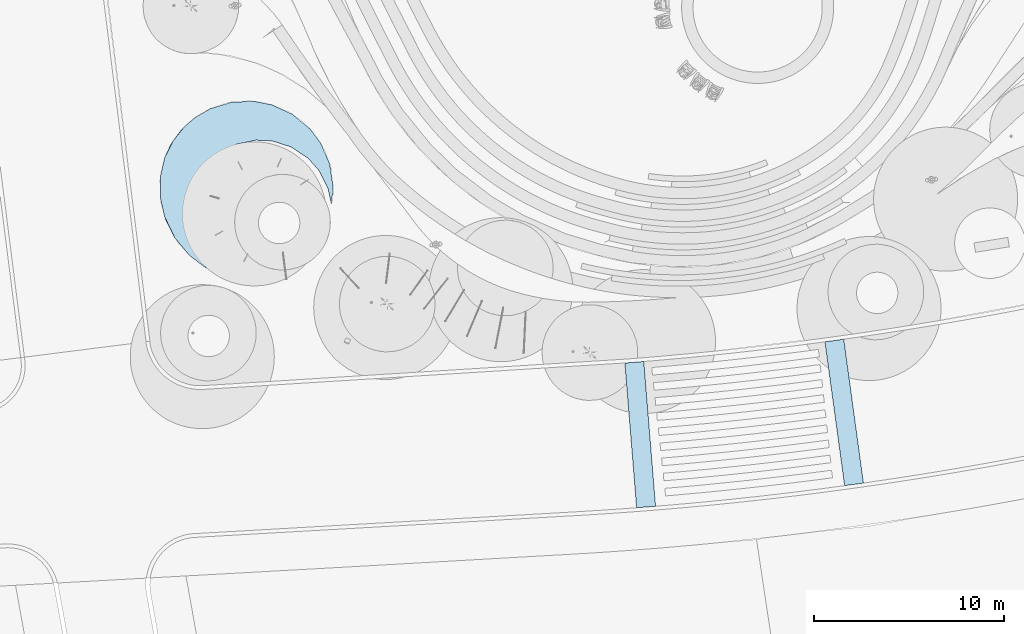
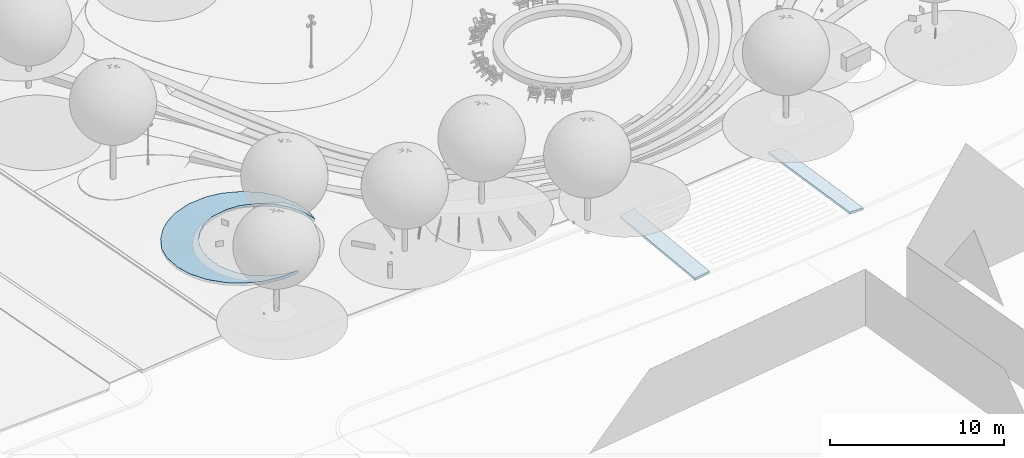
# One storey, part 41 of 75: 2 slabs.
"""IFC2X3 building model written with IfcOpenShell, lengths in metres."""

import ifcopenshell
import ifcopenshell.guid

model = None  # the IFC model being written
_history = None  # IfcOwnerHistory: only IFC2X3 demands one
_inside = {}  # id of a spatial element -> (the spatial element, [elements in it])
_under = {}  # id of a project, library or spatial element -> (it, [spatial elements below it])
_declared = {}  # id of a project -> (the project, [libraries it declares])
_typed = {}  # id of a type object -> (the type object, [elements of that type])
_made_of = {}  # id of a material, layer set ... -> (it, [elements and type objects made of it])


def new_model(schema):
    """Start an empty IFC model of exactly this schema.

    Asked for "IFC4X3", IfcOpenShell would pick the latest addendum, in which some entities
    have other attributes; the version numbers below select the first issue.
    IFC2X3 requires an IfcOwnerHistory on every rooted entity: one is made here for all.
    """
    global model, _history
    if schema == "IFC4X3":
        model = ifcopenshell.file(schema_version=(4, 3, 0, 0))
    else:
        model = ifcopenshell.file(schema=schema)
    _inside.clear()
    _under.clear()
    _declared.clear()
    _typed.clear()
    _made_of.clear()
    _history = None
    if model.schema == "IFC2X3":
        org = make("IfcOrganization", Name="unknown")
        user = make(
            "IfcPersonAndOrganization",
            ThePerson=make("IfcPerson", FamilyName="unknown"),
            TheOrganization=org,
        )
        app = make(
            "IfcApplication",
            ApplicationDeveloper=org,
            Version="unknown",
            ApplicationFullName="unknown",
            ApplicationIdentifier="unknown",
        )
        _history = make(
            "IfcOwnerHistory",
            OwningUser=user,
            OwningApplication=app,
            ChangeAction="ADDED",
            CreationDate=0,
        )
    return model


def make(cls, **values):
    """One entity of the class cls with the attributes given. An attribute that is None is left unset."""
    return model.create_entity(
        cls, **{name: value for name, value in values.items() if value is not None}
    )


def entity(cls, *values):
    """Any entity or typed value of the class cls, its attributes in the order of the schema. None: left unset."""
    e = model.create_entity(cls)
    for i, value in enumerate(values):
        if value is not None:
            e[i] = value
    return e


def rooted(cls, **values):
    """An entity with a GlobalId (a new one), such as an element, a storey or a relation."""
    return make(cls, GlobalId=ifcopenshell.guid.new(), OwnerHistory=_history, **values)


def si_unit(unit_type, name, prefix=None):
    """IfcSIUnit, for example si_unit("LENGTHUNIT", "METRE", prefix="MILLI")."""
    return make("IfcSIUnit", UnitType=unit_type, Prefix=prefix, Name=name)


def converted_unit(unit_type, name, factor, base, dimensions=None, offset=None):
    """IfcConversionBasedUnit, such as the inch: factor (a typed value) times the base unit."""
    return make(
        "IfcConversionBasedUnit"
        if offset is None
        else "IfcConversionBasedUnitWithOffset",
        ConversionOffset=offset,
        Dimensions=None
        if dimensions is None
        else entity("IfcDimensionalExponents", *dimensions),
        UnitType=unit_type,
        Name=name,
        ConversionFactor=make(
            "IfcMeasureWithUnit", ValueComponent=factor, UnitComponent=base
        ),
    )


def derived_unit(unit_type, elements):
    """IfcDerivedUnit: a product of units, each with its exponent."""
    return make(
        "IfcDerivedUnit",
        Elements=[
            make("IfcDerivedUnitElement", Unit=unit, Exponent=power)
            for unit, power in elements
        ],
        UnitType=unit_type,
    )


def assignment(units):
    """IfcUnitAssignment: the units of a project."""
    return None if units is None else make("IfcUnitAssignment", Units=units)


def point(xyz):
    """IfcCartesianPoint."""
    return None if xyz is None else make("IfcCartesianPoint", Coordinates=xyz)


def direction(xyz):
    """IfcDirection."""
    return None if xyz is None else make("IfcDirection", DirectionRatios=xyz)


def frame(location, z_axis=None, x_axis=None):
    """IfcAxis2Placement3D, a coordinate frame: its origin and axes. An axis left out is left unset."""
    return make(
        "IfcAxis2Placement3D",
        Location=point(location),
        Axis=direction(z_axis),
        RefDirection=direction(x_axis),
    )


def origin():
    """The frame at (0, 0, 0) with its axes left unset."""
    return frame((0.0, 0.0, 0.0))


def place(relative_to, where):
    """IfcLocalPlacement: puts the frame where relative to a parent placement (None: the world)."""
    return make(
        "IfcLocalPlacement", PlacementRelTo=relative_to, RelativePlacement=where
    )


def context(
    kind, dimensions, precision=None, world=None, true_north=None, identifier=None
):
    """IfcGeometricRepresentationContext, for example the 3D "Model" context."""
    return make(
        "IfcGeometricRepresentationContext",
        ContextIdentifier=identifier,
        ContextType=kind,
        CoordinateSpaceDimension=dimensions,
        Precision=precision,
        WorldCoordinateSystem=world,
        TrueNorth=true_north,
    )


def subcontext(parent, identifier, kind, view, scale=None):
    """IfcGeometricRepresentationSubContext, for example "Body" below "Model"."""
    return make(
        "IfcGeometricRepresentationSubContext",
        ContextIdentifier=identifier,
        ContextType=kind,
        ParentContext=parent,
        TargetScale=scale,
        TargetView=view,
    )


def project(units=None, contexts=None):
    """IfcProject with its units and contexts."""
    return rooted(
        "IfcProject",
        Name="project",
        RepresentationContexts=contexts,
        UnitsInContext=assignment(units),
    )


def spatial(cls, under=None, at=None, **own):
    """A site, building, storey or space (cls), placed at a placement, below another one or the project."""
    s = rooted(cls, ObjectPlacement=at, **own)
    if under is not None:
        _under.setdefault(under.id(), (under, []))[1].append(s)
    return s


def faces_of(points, faces, orient=None, outer=None):
    """IfcFace entities. A face is a list of loops; a loop is a list of indices into points, from 0.

    orient and outer hold one flag for each loop. By default every Orientation is true, the
    first loop of a face is its IfcFaceOuterBound and the others are IfcFaceBound.
    """
    made = []
    for i, loops in enumerate(faces):
        bounds = []
        for j, loop in enumerate(loops):
            is_outer = j == 0 if outer is None else outer[i][j]
            bounds.append(
                make(
                    "IfcFaceOuterBound" if is_outer else "IfcFaceBound",
                    Bound=make("IfcPolyLoop", Polygon=[points[k] for k in loop]),
                    Orientation=True if orient is None else orient[i][j],
                )
            )
        made.append(make("IfcFace", Bounds=bounds))
    return made


def face_set(faces, orient=None, outer=None):
    """The faces of one IfcConnectedFaceSet. surface_model builds it on its shared points."""
    return ("IfcConnectedFaceSet", faces, orient, outer)


def faceted_brep(points, faces, orient=None, outer=None, voids=None):
    """IfcFacetedBrep: a solid bounded by flat faces; with voids (closed shells), ...WithVoids."""
    shared = [point(p) for p in points]
    hull = make("IfcClosedShell", CfsFaces=faces_of(shared, faces, orient, outer))
    if voids is None:
        return make("IfcFacetedBrep", Outer=hull)
    return make(
        "IfcFacetedBrepWithVoids",
        Outer=hull,
        Voids=[
            make(cls, CfsFaces=faces_of(shared, fs, o, b)) for cls, fs, o, b in voids
        ],
    )


def surface_model(cls, points, shells):
    """IfcFaceBasedSurfaceModel or IfcShellBasedSurfaceModel (cls): surfaces that need not close."""
    shared = [point(p) for p in points]
    made = [make(c, CfsFaces=faces_of(shared, fs, o, b)) for c, fs, o, b in shells]
    if cls == "IfcFaceBasedSurfaceModel":
        return make(cls, FbsmFaces=made)
    return make(cls, SbsmBoundary=made)


def shape(context_of_items, identifier, shape_type, items):
    """IfcShapeRepresentation: the items that make up one representation, for example the "Body"."""
    return make(
        "IfcShapeRepresentation",
        ContextOfItems=context_of_items,
        RepresentationIdentifier=identifier,
        RepresentationType=shape_type,
        Items=items,
    )


def material(Name=None, Category=None):
    """IfcMaterial."""
    return make("IfcMaterial", Name=Name, Category=Category)


def layer(
    of_material, thickness, ventilated=None, Name=None, Category=None, Priority=None
):
    """IfcMaterialLayer: one layer of a wall or slab, of a material (None: an air gap)."""
    return make(
        "IfcMaterialLayer",
        Material=of_material,
        LayerThickness=thickness,
        IsVentilated=ventilated,
        Name=Name,
        Category=Category,
        Priority=Priority,
    )


def layer_set(layers, Name=None):
    """IfcMaterialLayerSet."""
    return make("IfcMaterialLayerSet", MaterialLayers=layers, LayerSetName=Name)


def made_of(thing, what):
    """Note that an element or type object is made of a material, layer set ...; save() writes the relation."""
    if what is not None:
        _made_of.setdefault(what.id(), (what, []))[1].append(thing)
    return thing


def type_object(cls, material=None, **own):
    """A type object (cls), such as IfcWallType, which elements share."""
    return made_of(rooted(cls, **own), material)


def element(
    cls,
    number,
    at=None,
    inside=None,
    cuts=None,
    type_object=None,
    material=None,
    context=None,
    identifier="Body",
    shape_type=None,
    held_by="IfcProductDefinitionShape",
    body=None,
    shapes=None,
    **own,
):
    """One element of the class cls, such as IfcWall. Its Tag is "e" and its number.

    at: its placement. inside: the storey or other place that contains it. cuts: it is an
    opening in that element (IfcRelVoidsElement). A single representation is given by context,
    identifier, shape_type and body (its items); several are given by shapes. held_by: the class
    of the entity that holds the representations. save() writes the other relations.
    """
    e = rooted(cls, Tag="e%d" % number, ObjectPlacement=at, **own)
    if body is not None:
        shapes = [shape(context, identifier, shape_type, body)]
    if shapes is not None:
        e.Representation = make(held_by, Representations=shapes)
    if inside is not None:
        _inside.setdefault(inside.id(), (inside, []))[1].append(e)
    if cuts is not None:
        rooted(
            "IfcRelVoidsElement", RelatingBuildingElement=cuts, RelatedOpeningElement=e
        )
    if type_object is not None:
        _typed.setdefault(type_object.id(), (type_object, []))[1].append(e)
    return made_of(e, material)


def aggregate(whole, parts):
    """IfcRelAggregates: a whole, such as a stair, and the parts it consists of."""
    return rooted("IfcRelAggregates", RelatingObject=whole, RelatedObjects=parts)


def save(model, path):
    """Write the relations noted so far, then the file.

    IfcRelAggregates (storeys below a building ...), IfcRelContainedInSpatialStructure (elements
    in a storey), IfcRelDefinesByType, IfcRelAssociatesMaterial and IfcRelDeclares: one each for
    every whole, place, type object, material and project.
    """
    for whole, parts in _under.values():
        aggregate(whole, parts)
    for where, things in _inside.values():
        rooted(
            "IfcRelContainedInSpatialStructure",
            RelatedElements=things,
            RelatingStructure=where,
        )
    for kind, things in _typed.values():
        rooted("IfcRelDefinesByType", RelatedObjects=things, RelatingType=kind)
    for what, things in _made_of.values():
        rooted("IfcRelAssociatesMaterial", RelatedObjects=things, RelatingMaterial=what)
    for by, libraries in _declared.values():
        rooted("IfcRelDeclares", RelatingContext=by, RelatedDefinitions=libraries)
    model.write(path)


model = new_model("IFC2X3")

# Units and contexts
model_context = context("Model", 3, precision=1e-05, world=origin(), true_north=direction((6.123031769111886e-17, 1.0)))
body_context = subcontext(model_context, "Body", "Model", "MODEL_VIEW")
ifc_project = project(units=[si_unit("LENGTHUNIT", "METRE"), si_unit("AREAUNIT", "SQUARE_METRE"), si_unit("VOLUMEUNIT", "CUBIC_METRE"), converted_unit("PLANEANGLEUNIT", "DEGREE", entity("IfcRatioMeasure", 0.017453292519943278), si_unit("PLANEANGLEUNIT", "RADIAN"), dimensions=[0, 0, 0, 0, 0, 0, 0]), si_unit("MASSUNIT", "GRAM", prefix="KILO"), derived_unit("MASSDENSITYUNIT", [(si_unit("MASSUNIT", "GRAM", prefix="KILO"), 1), (si_unit("LENGTHUNIT", "METRE"), -3)]), derived_unit("IONCONCENTRATIONUNIT", [(si_unit("MASSUNIT", "GRAM", prefix="KILO"), 1), (si_unit("LENGTHUNIT", "METRE"), -3)]), derived_unit("MOMENTOFINERTIAUNIT", [(si_unit("LENGTHUNIT", "METRE"), 4)]), si_unit("TIMEUNIT", "SECOND"), si_unit("FREQUENCYUNIT", "HERTZ"), si_unit("THERMODYNAMICTEMPERATUREUNIT", "DEGREE_CELSIUS"), derived_unit("THERMALTRANSMITTANCEUNIT", [(si_unit("MASSUNIT", "GRAM", prefix="KILO"), 1), (si_unit("THERMODYNAMICTEMPERATUREUNIT", "KELVIN"), -1), (si_unit("TIMEUNIT", "SECOND"), -3)]), derived_unit("THERMALCONDUCTANCEUNIT", [(si_unit("MASSUNIT", "GRAM", prefix="KILO"), 1), (si_unit("THERMODYNAMICTEMPERATUREUNIT", "KELVIN"), -1), (si_unit("TIMEUNIT", "SECOND"), -3), (si_unit("LENGTHUNIT", "METRE"), 1)]), derived_unit("VOLUMETRICFLOWRATEUNIT", [(si_unit("LENGTHUNIT", "METRE"), 3), (si_unit("TIMEUNIT", "SECOND"), -1)]), derived_unit("MASSFLOWRATEUNIT", [(si_unit("MASSUNIT", "GRAM", prefix="KILO"), 1), (si_unit("TIMEUNIT", "SECOND"), -1)]), derived_unit("ROTATIONALFREQUENCYUNIT", [(si_unit("TIMEUNIT", "SECOND"), -1)]), si_unit("ELECTRICCURRENTUNIT", "AMPERE"), si_unit("ELECTRICVOLTAGEUNIT", "VOLT"), si_unit("POWERUNIT", "WATT"), si_unit("FORCEUNIT", "NEWTON", prefix="KILO"), si_unit("ILLUMINANCEUNIT", "LUX"), si_unit("LUMINOUSFLUXUNIT", "LUMEN"), si_unit("LUMINOUSINTENSITYUNIT", "CANDELA"), derived_unit("USERDEFINED", [(si_unit("MASSUNIT", "GRAM", prefix="KILO"), -1), (si_unit("LENGTHUNIT", "METRE"), -2), (si_unit("TIMEUNIT", "SECOND"), 3), (si_unit("LUMINOUSFLUXUNIT", "LUMEN"), 1)]), derived_unit("USERDEFINED", [(si_unit("MASSUNIT", "GRAM", prefix="KILO"), 1), (si_unit("TIMEUNIT", "SECOND"), -3), (si_unit("LENGTHUNIT", "METRE"), 3), (si_unit("ELECTRICCURRENTUNIT", "AMPERE"), -2)]), derived_unit("SOUNDPOWERUNIT", [(si_unit("MASSUNIT", "GRAM", prefix="KILO"), 1), (si_unit("TIMEUNIT", "SECOND"), -3), (si_unit("LENGTHUNIT", "METRE"), 2)]), derived_unit("SOUNDPRESSUREUNIT", [(si_unit("MASSUNIT", "GRAM", prefix="KILO"), 1), (si_unit("LENGTHUNIT", "METRE"), -1), (si_unit("TIMEUNIT", "SECOND"), -2)]), derived_unit("LINEARVELOCITYUNIT", [(si_unit("LENGTHUNIT", "METRE"), 1), (si_unit("TIMEUNIT", "SECOND"), -1)]), si_unit("PRESSUREUNIT", "PASCAL"), derived_unit("USERDEFINED", [(si_unit("MASSUNIT", "GRAM", prefix="KILO"), 1), (si_unit("LENGTHUNIT", "METRE"), -2), (si_unit("TIMEUNIT", "SECOND"), -2)]), derived_unit("LINEARFORCEUNIT", [(si_unit("MASSUNIT", "GRAM", prefix="KILO"), 1), (si_unit("TIMEUNIT", "SECOND"), -2)]), derived_unit("PLANARFORCEUNIT", [(si_unit("MASSUNIT", "GRAM", prefix="KILO"), 1), (si_unit("LENGTHUNIT", "METRE"), -1), (si_unit("TIMEUNIT", "SECOND"), -2)]), derived_unit("SPECIFICHEATCAPACITYUNIT", [(si_unit("THERMODYNAMICTEMPERATUREUNIT", "KELVIN"), -1), (si_unit("LENGTHUNIT", "METRE"), 2), (si_unit("TIMEUNIT", "SECOND"), -2)]), derived_unit("HEATINGVALUEUNIT", [(si_unit("LENGTHUNIT", "METRE"), 2), (si_unit("TIMEUNIT", "SECOND"), -2)]), derived_unit("VAPORPERMEABILITYUNIT", [(si_unit("LENGTHUNIT", "METRE"), -1), (si_unit("TIMEUNIT", "SECOND"), 1)]), derived_unit("DYNAMICVISCOSITYUNIT", [(si_unit("MASSUNIT", "GRAM", prefix="KILO"), 1), (si_unit("TIMEUNIT", "SECOND"), -1), (si_unit("LENGTHUNIT", "METRE"), -1)]), derived_unit("THERMALEXPANSIONCOEFFICIENTUNIT", [(si_unit("THERMODYNAMICTEMPERATUREUNIT", "KELVIN"), -1)]), derived_unit("MODULUSOFELASTICITYUNIT", [(si_unit("MASSUNIT", "GRAM", prefix="KILO"), 1), (si_unit("LENGTHUNIT", "METRE"), -1), (si_unit("TIMEUNIT", "SECOND"), -2)]), derived_unit("ISOTHERMALMOISTURECAPACITYUNIT", [(si_unit("LENGTHUNIT", "METRE"), 3), (si_unit("MASSUNIT", "GRAM", prefix="KILO"), -1)]), derived_unit("MOISTUREDIFFUSIVITYUNIT", [(si_unit("TIMEUNIT", "SECOND"), -1), (si_unit("LENGTHUNIT", "METRE"), 2)])], contexts=[model_context])

# Site, building, storey
site_placement = place(None, origin())
site = spatial("IfcSite", under=ifc_project, at=site_placement, Name="Default", CompositionType="ELEMENT")
building_placement = place(site_placement, origin())
building = spatial("IfcBuilding", under=site, at=building_placement, Name="Projeto", CompositionType="ELEMENT")
storey_placement = place(building_placement, origin())
storey = spatial("IfcBuildingStorey", under=building, at=storey_placement, Name="Nível 1", CompositionType="ELEMENT", Elevation=0.0)

# Slabs
ifc_material_1 = material(Name="Piso CAJOI PASSEIO")
ifc_layer_1 = layer(ifc_material_1, 0.14999999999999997)
ifc_layer_set_1 = layer_set([ifc_layer_1], Name="Piso:Basalto Flameado 20x10cm")
slab_type_1 = type_object("IfcSlabType", Name="Piso:Basalto Flameado 20x10cm", PredefinedType="FLOOR", material=ifc_layer_set_1)
slab_1_placement = place(storey_placement, origin())
element("IfcSlab", 1, at=slab_1_placement, inside=storey, type_object=slab_type_1, material=ifc_material_1, Name="Piso:Basalto Flameado 20x10cm", ObjectType="Piso:Basalto Flameado 20x10cm", PredefinedType="FLOOR", context=body_context, shape_type="Brep", body=[
    faceted_brep([(12.281256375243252, -18.14607681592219, -0.14999999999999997), (12.281256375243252, -18.14607681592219, 0.0), (12.481069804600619, -18.118756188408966, -0.024200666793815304), (12.776647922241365, -18.078341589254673, -0.06), (12.776647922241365, -18.078341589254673, -0.20999999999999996), (12.481069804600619, -18.11875618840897, -0.17420066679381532), (13.271852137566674, -18.009250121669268, -0.12), (13.271852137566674, -18.009250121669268, -0.26999999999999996), (14.308225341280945, -25.58097120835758, -0.12), (14.308225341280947, -25.5809712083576, -0.26999999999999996), (13.9320114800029, -22.83236055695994, -0.26999999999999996), (13.932011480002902, -22.832360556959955, -0.12), (13.813125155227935, -25.65081502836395, -0.06), (13.813125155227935, -25.65081502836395, -0.20999999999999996), (13.317835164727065, -25.719299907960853, 0.0), (13.317835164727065, -25.719299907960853, -0.14999999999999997), (12.941546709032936, -22.97014427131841, -0.14999999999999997), (12.941546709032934, -22.97014427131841, 0.0), (13.477236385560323, -21.872448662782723, -0.08155178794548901), (13.14713236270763, -21.885039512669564, -0.04210033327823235), (13.477236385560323, -21.87244866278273, -0.23155178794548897), (13.14713236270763, -21.885039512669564, -0.19210033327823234)], [[[0, 1, 2, 3, 4, 5]], [[3, 6, 7, 4]], [[8, 9, 10, 7, 6, 11]], [[9, 8, 12, 13]], [[12, 14, 15, 13]], [[1, 0, 16, 15, 14, 17]], [[3, 18, 6]], [[6, 18, 8, 11]], [[12, 8, 18]], [[12, 18, 19]], [[17, 19, 2]], [[2, 19, 3]], [[14, 12, 19]], [[2, 1, 17]], [[17, 14, 19]], [[3, 19, 18]], [[7, 20, 4]], [[10, 9, 20, 7]], [[20, 9, 13]], [[21, 20, 13]], [[5, 21, 16]], [[4, 21, 5]], [[21, 13, 15]], [[16, 0, 5]], [[21, 15, 16]], [[20, 21, 4]]]),
    faceted_brep([(3.3618621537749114, -26.804206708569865, -0.1499997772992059), (2.7427340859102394, -19.182611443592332, -0.15000000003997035), (2.7427340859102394, -19.182611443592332, 0.0), (3.361862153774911, -26.80420670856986, 2.2270094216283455e-07), (2.8634463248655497, -26.84400639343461, -0.20999999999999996), (2.8634463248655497, -26.84400639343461, -0.06), (2.36492312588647, -26.88243815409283, -0.11999977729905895), (2.36492312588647, -26.88243815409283, -0.26999977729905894), (1.746017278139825, -19.26357813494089, -0.26999999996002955), (1.746017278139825, -19.26357813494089, -0.1199999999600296)], [[[0, 1, 2, 3]], [[4, 0, 3, 5]], [[6, 7, 4, 5]], [[8, 7, 6, 9]], [[3, 2, 5]], [[5, 2, 9, 6]], [[4, 1, 0]], [[7, 8, 1, 4]], [[1, 8, 9, 2]]]),
])
ifc_material_2 = material(Name="floração tipo 1")
ifc_layer_2 = layer(ifc_material_2, 0.04)
ifc_layer_3 = layer(ifc_material_2, 0.16)
ifc_layer_set_2 = layer_set([ifc_layer_2, ifc_layer_3], Name="Piso:Floração tipo 1")
slab_type_2 = type_object("IfcSlabType", Name="Piso:Floração tipo 1", PredefinedType="FLOOR", material=ifc_layer_set_2)
slab_2_placement = place(storey_placement, origin())
element("IfcSlab", 2, at=slab_2_placement, inside=storey, type_object=slab_type_2, material=ifc_material_2, Name="Piso:Floração tipo 1", ObjectType="Piso:Floração tipo 1", PredefinedType="FLOOR", context=body_context, shape_type="SurfaceModel", body=[
    surface_model("IfcFaceBasedSurfaceModel", [(-13.881421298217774, -10.07809996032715, -0.2000000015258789), (-13.815110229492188, -10.389997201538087, 0.0), (-13.792794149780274, -10.494959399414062, -0.2000000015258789), (-14.120332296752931, -9.602678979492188, -0.2000000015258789), (-14.120332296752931, -9.602678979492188, 0.0), (-13.881421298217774, -10.07809996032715, 0.0), (-15.363752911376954, -8.190239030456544, 0.0), (-15.363752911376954, -8.190239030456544, -0.2000000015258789), (-15.805051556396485, -7.892988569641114, -0.2000000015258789), (-15.805051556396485, -7.892988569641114, 0.0), (-14.359243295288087, -9.127257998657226, -0.2000000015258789), (-14.64084819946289, -8.807374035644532, 0.0), (-14.359243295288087, -9.127257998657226, 0.0), (-14.64084819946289, -8.807374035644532, -0.2000000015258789), (-14.922453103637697, -8.487490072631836, 0.0), (-16.819081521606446, -7.570255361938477, -0.2000000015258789), (-16.819081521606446, -7.570255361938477, 0.0), (-16.31206712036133, -7.731622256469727, 0.0), (-16.31206712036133, -7.731622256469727, -0.2000000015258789), (-14.922453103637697, -8.487490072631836, -0.2000000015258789), (-18.191303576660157, -7.6339026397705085, 0.0), (-18.191303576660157, -7.6339026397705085, -0.2000000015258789), (-18.712320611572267, -7.741811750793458, -0.2000000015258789), (-18.712320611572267, -7.741811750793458, 0.0), (-17.670286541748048, -7.525992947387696, 0.0), (-17.670286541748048, -7.525992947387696, -0.2000000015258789), (-17.24468461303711, -7.548124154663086, -0.2000000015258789), (-17.24468461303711, -7.548124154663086, 0.0), (-18.997986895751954, -7.883488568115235, -0.2000000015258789), (-19.094121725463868, -7.931167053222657, 0.0), (-13.704167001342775, -10.911820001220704, -0.2000000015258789), (-13.704167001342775, -10.911820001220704, 0.0), (-19.47592283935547, -8.120522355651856, -0.2000000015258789), (-19.47592283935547, -8.120522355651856, 0.0), (-19.962974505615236, -8.550319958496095, -0.2000000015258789), (-19.791873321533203, -8.416052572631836, 0.0), (-20.65673215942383, -9.638041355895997, -0.2000000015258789), (-20.65673215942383, -9.638041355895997, 0.0), (-20.483082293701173, -9.2417975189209, 0.0), (-20.483082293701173, -9.2417975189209, -0.2000000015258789), (-20.678093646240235, -12.570709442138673, -0.2000000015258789), (-20.510231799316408, -12.96944091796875, -0.2000000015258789), (-20.62205520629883, -12.663482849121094, 0.0), (-20.123348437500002, -13.489117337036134, 0.0), (-20.398157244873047, -13.154986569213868, 0.0), (-20.179386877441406, -13.396345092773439, -0.2000000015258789), (-20.223028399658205, -8.896058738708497, -0.2000000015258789), (-20.91226539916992, -10.568140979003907, 0.0), (-20.91226539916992, -10.568140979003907, -0.2000000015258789), (-20.99414877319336, -11.101995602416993, -0.2000000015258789), (-20.99414877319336, -11.101995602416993, 0.0), (-20.107826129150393, -8.711583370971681, 0.0), (-20.830384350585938, -10.034285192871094, 0.0), (-20.830384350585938, -10.034285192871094, -0.2000000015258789), (-18.970440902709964, -14.452349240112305, 0.0), (-18.970440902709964, -14.452349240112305, -0.2000000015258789), (-18.459809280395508, -14.628310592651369, -0.2000000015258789), (-18.459809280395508, -14.628310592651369, 0.0), (-20.920050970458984, -11.636987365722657, 0.0), (-20.920050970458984, -11.636987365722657, -0.2000000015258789), (-20.84595316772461, -12.17197912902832, -0.2000000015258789), (-20.84595316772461, -12.17197912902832, 0.0), (-17.086110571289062, -14.865661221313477, -0.2000000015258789), (-17.086110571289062, -14.865661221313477, 0.0), (-17.517644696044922, -14.834966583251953, 0.0), (-19.848539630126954, -13.823249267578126, -0.2000000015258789), (-19.409490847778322, -14.13779983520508, -0.2000000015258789), (-19.409490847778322, -14.13779983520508, 0.0), (-19.848539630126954, -13.823249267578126, 0.0), (-17.61743046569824, -14.827868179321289, -0.2000000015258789), (-17.949178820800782, -14.804270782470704, 0.0), (-17.949178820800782, -14.804270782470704, -0.2000000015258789), (-18.06460317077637, -14.915512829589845, -0.04972682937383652), (-18.06460317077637, -14.915512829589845, -0.24972683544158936), (-19.26979588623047, -14.703994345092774, -0.11188536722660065), (-19.26979588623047, -14.703994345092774, -0.3118853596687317), (-20.17284076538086, -14.323919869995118, -0.36161219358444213), (-20.385358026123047, -14.20134246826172, -0.17404390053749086), (-21.166552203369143, -13.60996693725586, -0.4237707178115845), (-21.166552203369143, -13.60996693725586, -0.2237707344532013), (-21.953104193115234, -12.672682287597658, -0.28592927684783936), (-21.953104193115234, -12.672682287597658, -0.4859292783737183), (-22.39992808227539, -11.800708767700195, -0.5356561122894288), (-22.701342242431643, -10.614840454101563, -0.5978146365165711), (-22.4837625, -11.570142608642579, -0.3480878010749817), (-22.701342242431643, -10.614840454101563, -0.39781463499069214), (-22.700486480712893, -9.391227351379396, -0.4599731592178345), (-22.700486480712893, -9.391227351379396, -0.6599731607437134), (-22.481571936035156, -8.436235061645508, -0.509699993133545), (-22.481571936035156, -8.436235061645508, -0.7096999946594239), (-20.923985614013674, -6.363772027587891, -0.6113368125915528), (-21.463613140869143, -6.834577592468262, -0.43816315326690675), (-20.923985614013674, -6.363772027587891, -0.4113368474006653), (-21.626300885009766, -7.009579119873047, -0.6471052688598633), (-22.05655834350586, -7.582065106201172, -0.47393157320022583), (-18.96470520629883, -5.526063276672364, -0.3308578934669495), (-17.774192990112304, -5.480259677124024, -0.28614735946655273), (-17.774192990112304, -5.480259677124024, -0.48614736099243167), (-18.96470520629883, -5.526063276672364, -0.5308578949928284), (-20.103035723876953, -5.877673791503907, -0.3755684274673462), (-20.103035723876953, -5.877673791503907, -0.5755684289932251), (-16.838487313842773, -5.666589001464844, -0.4503789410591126), (-16.838487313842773, -5.666589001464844, -0.25037893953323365), (-22.179376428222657, -7.7869357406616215, -0.682873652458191), (-15.75633592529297, -6.164954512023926, -0.20566842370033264), (-14.839550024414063, -6.925792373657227, -0.1609578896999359), (-14.839550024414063, -6.925792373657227, -0.36095790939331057), (-15.75633592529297, -6.164954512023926, -0.4056684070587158), (-14.267414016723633, -7.689323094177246, -0.12518946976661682), (-14.267414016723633, -7.689323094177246, -0.3251894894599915), (-13.6202291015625, -9.96145242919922, -0.03576841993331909), (-13.6202291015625, -9.96145242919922, -0.23576842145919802), (-13.794648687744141, -8.782873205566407, -0.08047894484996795), (-13.794648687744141, -8.782873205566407, -0.2804789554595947), (-19.827561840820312, -14.452636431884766, -0.14296463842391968), (-22.601552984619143, -8.959633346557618, -0.4824464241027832), (-22.592507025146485, -11.092481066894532, -0.37295121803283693), (-17.62238946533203, -14.892985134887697, -0.027253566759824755), (-22.218383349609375, -12.121389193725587, -0.31700852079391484), (-22.700898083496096, -10.003031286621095, -0.4288939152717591), (-21.55978401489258, -13.141288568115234, -0.2548499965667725), (-20.77592720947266, -13.905619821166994, -0.19890731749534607), (-18.66719429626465, -14.809736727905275, -0.08080609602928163), (-22.601552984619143, -8.959633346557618, -0.6824464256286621), (-22.55060028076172, -11.20776589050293, -0.5667353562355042), (-17.517644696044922, -14.834966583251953, -0.2000000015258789), (-17.62238946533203, -14.892985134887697, -0.22725357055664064), (-22.17647660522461, -12.236674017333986, -0.5107926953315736), (-22.700898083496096, -10.003031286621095, -0.6288938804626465), (-21.55978401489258, -13.141288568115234, -0.45484999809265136), (-19.721298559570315, -14.51391524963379, -0.3367487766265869), (-18.66719429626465, -14.809736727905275, -0.28080609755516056), (-20.669663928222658, -13.966898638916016, -0.39269147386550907), (-19.9498497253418, -8.563817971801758, 0.0), (-21.908316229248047, -7.39519686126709, -0.4649894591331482), (-21.29917201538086, -6.691114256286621, -0.42998850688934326), (-19.633899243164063, -8.268287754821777, 0.0), (-20.20163900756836, -8.844136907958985, 0.0), (-21.760081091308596, -7.208325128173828, -0.45604738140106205), (-20.29545421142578, -8.97669044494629, 0.0), (-22.259943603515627, -7.990825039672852, -0.49104833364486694), (-20.389269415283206, -9.109243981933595, 0.0), (-20.513508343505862, -6.1207269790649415, -0.39345261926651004), (-15.584402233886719, -8.041613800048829, 0.0), (-16.565573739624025, -7.650938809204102, 0.0), (-16.29741685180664, -5.915780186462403, -0.22802369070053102), (-16.058559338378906, -7.812305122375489, 0.0), (-18.369448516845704, -5.503166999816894, -0.3085026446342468), (-17.9307950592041, -7.579947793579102, 0.0), (-15.297947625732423, -6.545380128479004, -0.1833131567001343), (-13.792794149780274, -10.494959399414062, 0.0), (-14.031037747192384, -8.236100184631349, -0.10283421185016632), (-14.239787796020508, -9.364968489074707, 0.0), (-19.533868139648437, -5.701877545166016, -0.3532131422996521), (-17.306341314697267, -5.573426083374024, -0.2682631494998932), (-15.143103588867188, -8.33886484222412, 0.0), (-13.707448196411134, -9.372164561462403, -0.058123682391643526), (-14.000876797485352, -9.840388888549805, 0.0), (-14.553482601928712, -7.307558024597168, -0.14307367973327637), (-18.45181209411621, -7.687857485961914, 0.0), (-13.66220212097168, -10.436636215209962, -0.017884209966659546), (-22.330474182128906, -8.111585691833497, -0.6962868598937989), (-20.35305534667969, -9.068927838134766, -0.2000000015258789), (-21.902839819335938, -7.398257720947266, -0.6649894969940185), (-21.27514324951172, -6.686676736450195, -0.6292210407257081), (-19.59768517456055, -8.22797161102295, -0.2000000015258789), (-20.09300145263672, -8.723189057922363, -0.2000000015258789), (-19.841212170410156, -8.442870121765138, -0.2000000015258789), (-19.719447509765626, -8.335420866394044, -0.2000000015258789), (-20.513508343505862, -6.1207269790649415, -0.5934526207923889), (-15.584402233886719, -8.041613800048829, -0.2000000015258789), (-16.565573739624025, -7.650938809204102, -0.2000000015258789), (-16.29741685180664, -5.915780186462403, -0.42802369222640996), (-16.058559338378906, -7.812305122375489, -0.2000000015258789), (-18.369448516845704, -5.503166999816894, -0.5085026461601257), (-17.9307950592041, -7.579947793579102, -0.2000000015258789), (-15.297947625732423, -6.545380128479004, -0.3833131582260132), (-19.533868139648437, -5.701877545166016, -0.553213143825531), (-17.306341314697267, -5.573426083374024, -0.4682631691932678), (-14.031037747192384, -8.236100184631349, -0.3028342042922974), (-14.239787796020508, -9.364968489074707, -0.2000000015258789), (-15.143103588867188, -8.33886484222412, -0.2000000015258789), (-13.707448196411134, -9.372164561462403, -0.25812368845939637), (-14.000876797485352, -9.840388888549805, -0.2000000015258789), (-14.553482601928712, -7.307558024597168, -0.34307368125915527), (-18.45181209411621, -7.687857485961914, -0.2000000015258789), (-19.094121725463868, -7.931167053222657, -0.2000000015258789), (-13.66220212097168, -10.436636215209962, -0.21788421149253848)], [face_set([[[0, 1, 2]], [[0, 3, 4, 5]], [[6, 7, 8, 9]], [[10, 11, 12]], [[12, 4, 3, 10]], [[0, 5, 1]], [[10, 13, 14, 11]], [[15, 16, 17, 18]], [[7, 6, 14, 19]], [[20, 21, 22, 23]], [[24, 25, 21, 20]], [[26, 27, 16, 15]], [[28, 23, 22]], [[27, 26, 25, 24]], [[23, 28, 29]], [[18, 17, 9, 8]], [[30, 2, 31]], [[32, 29, 28]], [[31, 2, 1]], [[13, 19, 14]], [[32, 33, 29]], [[34, 35, 32]], [[36, 37, 38, 39]], [[40, 41, 42]], [[43, 44, 45]], [[38, 46, 39]], [[47, 48, 49, 50]], [[33, 32, 35]], [[51, 46, 38]], [[48, 47, 52, 53]], [[53, 52, 37, 36]], [[54, 55, 56, 57]], [[58, 59, 60, 61]], [[59, 58, 50, 49]], [[40, 61, 60]], [[62, 63, 64]], [[65, 43, 45]], [[34, 51, 35]], [[66, 67, 68, 65]], [[69, 70, 71]], [[70, 69, 64]], [[45, 44, 41]], [[44, 42, 41]], [[55, 54, 67, 66]], [[71, 70, 57, 56]], [[62, 64, 69]], [[51, 34, 46]], [[61, 40, 42]], [[43, 65, 68]], [[62, 63, 72, 73]], [[73, 72, 74, 75]], [[76, 74, 77]], [[77, 78, 76]], [[76, 75, 74]], [[78, 79, 80, 81]], [[78, 77, 79]], [[82, 81, 80]], [[83, 84, 85]], [[82, 80, 84]], [[83, 85, 86, 87]], [[82, 84, 83]], [[88, 89, 87, 86]], [[90, 91, 92]], [[93, 94, 91]], [[95, 96, 97, 98]], [[92, 99, 100, 90]], [[99, 95, 98, 100]], [[101, 97, 96, 102]], [[88, 103, 89]], [[88, 94, 103]], [[94, 93, 103]], [[91, 90, 93]], [[104, 105, 106, 107]], [[105, 108, 109, 106]], [[110, 31, 30, 111]], [[108, 112, 113, 109]], [[112, 110, 111, 113]], [[107, 101, 102, 104]], [[67, 77, 114]], [[38, 88, 115]], [[58, 116, 84]], [[64, 72, 117]], [[61, 84, 118]], [[37, 38, 115]], [[86, 52, 37]], [[52, 86, 119]], [[50, 47, 85]], [[47, 52, 119]], [[85, 47, 119]], [[50, 116, 58]], [[44, 120, 79]], [[61, 118, 80]], [[121, 43, 79]], [[74, 57, 54]], [[42, 61, 80]], [[43, 121, 68]], [[77, 67, 68]], [[121, 77, 68]], [[72, 64, 70]], [[122, 72, 70]], [[120, 42, 80]], [[86, 37, 115]], [[122, 70, 57]], [[117, 63, 64]], [[114, 74, 54]], [[114, 54, 67]], [[57, 74, 122]], [[84, 61, 58]], [[42, 120, 44]], [[43, 44, 79]], [[50, 85, 116]], [[82, 60, 59]], [[39, 89, 123]], [[59, 124, 82]], [[125, 73, 126]], [[40, 127, 81]], [[36, 39, 123]], [[87, 53, 36]], [[53, 87, 128]], [[49, 48, 83]], [[48, 53, 128]], [[83, 48, 128]], [[83, 124, 49]], [[60, 82, 127]], [[81, 129, 41]], [[78, 65, 45]], [[81, 41, 40]], [[75, 56, 55]], [[60, 127, 40]], [[130, 75, 55]], [[66, 130, 55]], [[45, 41, 129]], [[73, 125, 71]], [[131, 73, 71]], [[78, 132, 65]], [[87, 36, 123]], [[131, 71, 56]], [[126, 62, 125]], [[49, 124, 59]], [[130, 66, 76]], [[56, 75, 131]], [[76, 65, 132]], [[129, 78, 45]], [[76, 66, 65]], [[133, 134, 51]], [[92, 135, 136]], [[51, 94, 137]], [[91, 133, 35]], [[136, 33, 92]], [[133, 138, 134]], [[139, 137, 140, 141]], [[35, 135, 91]], [[140, 137, 94]], [[133, 91, 138]], [[51, 134, 94]], [[88, 141, 140]], [[135, 35, 136]], [[141, 88, 38]], [[142, 92, 33]], [[143, 104, 9]], [[96, 24, 27]], [[102, 16, 144]], [[145, 146, 104]], [[147, 148, 24]], [[6, 105, 149]], [[146, 145, 17]], [[95, 20, 148]], [[110, 5, 150]], [[151, 152, 112]], [[99, 23, 153]], [[27, 154, 96]], [[24, 96, 147]], [[95, 148, 147]], [[16, 102, 154]], [[104, 143, 149]], [[27, 16, 154]], [[105, 6, 155]], [[156, 4, 157]], [[158, 11, 108]], [[144, 17, 102]], [[151, 108, 12]], [[11, 12, 108]], [[153, 23, 159]], [[29, 23, 99]], [[11, 158, 14]], [[20, 153, 159]], [[156, 5, 110]], [[31, 160, 150]], [[20, 95, 153]], [[152, 151, 12]], [[158, 105, 14]], [[152, 4, 112]], [[33, 29, 142]], [[146, 9, 104]], [[145, 102, 17]], [[155, 14, 105]], [[29, 99, 142]], [[160, 110, 150]], [[4, 156, 112]], [[157, 5, 156]], [[143, 6, 149]], [[39, 161, 89]], [[46, 103, 162]], [[34, 93, 163]], [[161, 39, 162]], [[90, 164, 165]], [[46, 166, 103]], [[165, 32, 90]], [[93, 167, 164]], [[103, 166, 163]], [[166, 34, 163]], [[162, 103, 161]], [[168, 164, 167]], [[93, 34, 167]], [[164, 168, 165]], [[169, 90, 32]], [[170, 107, 8]], [[97, 25, 26]], [[101, 15, 171]], [[172, 173, 107]], [[174, 175, 25]], [[7, 106, 176]], [[173, 172, 18]], [[98, 21, 175]], [[111, 0, 2]], [[100, 22, 177]], [[177, 21, 98]], [[26, 178, 97]], [[179, 180, 113]], [[98, 175, 174]], [[15, 101, 178]], [[107, 170, 176]], [[26, 15, 178]], [[106, 7, 181]], [[182, 3, 183]], [[184, 13, 109]], [[180, 3, 113]], [[179, 109, 10]], [[13, 10, 109]], [[177, 22, 185]], [[186, 22, 100]], [[13, 184, 19]], [[177, 185, 21]], [[182, 0, 111]], [[30, 187, 2]], [[25, 97, 174]], [[180, 179, 10]], [[184, 106, 19]], [[172, 101, 18]], [[32, 186, 169]], [[173, 8, 107]], [[171, 18, 101]], [[181, 19, 106]], [[186, 100, 169]], [[187, 111, 2]], [[3, 182, 113]], [[183, 0, 182]], [[170, 7, 176]]])]),
])

save(model, "model.ifc")
